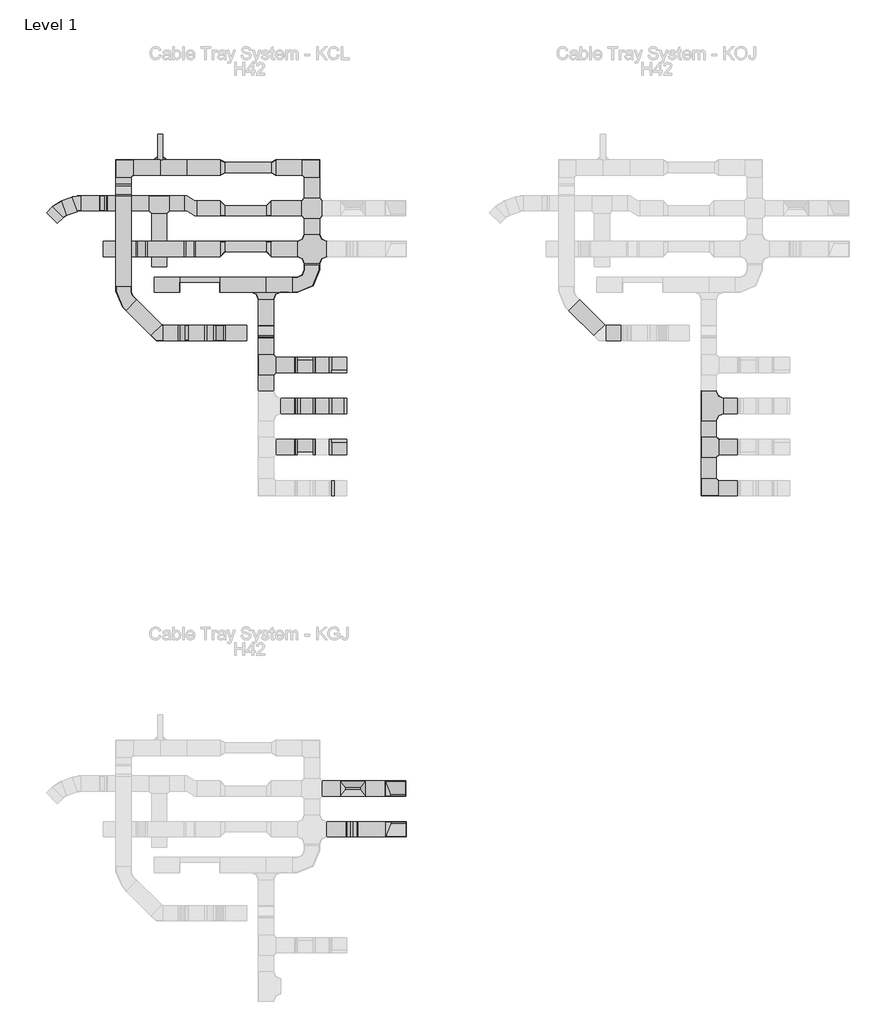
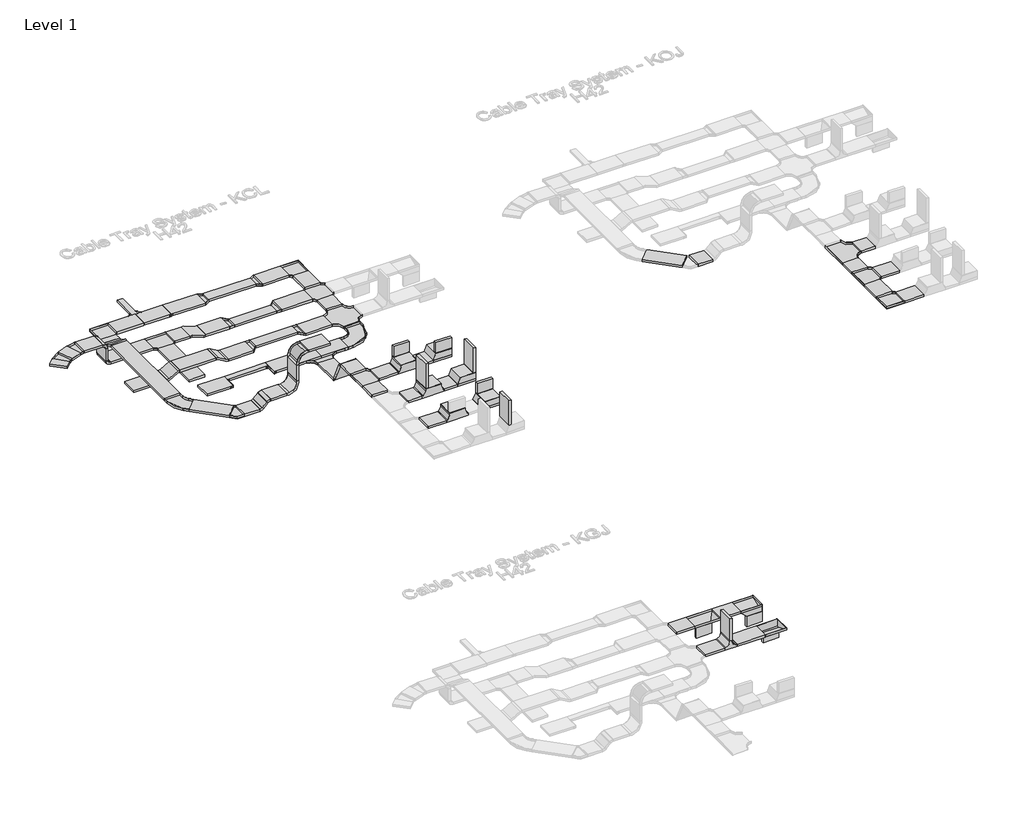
# One storey, part 2 of 106: 66 cable carrier segments, 48 cable carrier fittings.
"""IFC4 building model written with IfcOpenShell, lengths in millimetres."""

from ifc_helpers import new_model, si_unit, frame, origin, place, context, project, spatial, polyline, outline, extrude, transform, mapped, element, save
from components import cable_carrier_fitting_2f03b0e3, cable_carrier_fitting_e5c8e40d, cable_carrier_fitting_89415aa4, cable_carrier_fitting_efa56db2, cable_carrier_fitting_91cb0ece, cable_carrier_fitting_fd90c8b5, cable_carrier_fitting_9cc64f74, cable_carrier_fitting_881c8fdb, cable_carrier_fitting_302010ec, cable_carrier_fitting_bee8c25e, cable_carrier_fitting_2b67af39, cable_carrier_fitting_400b97e6, cable_carrier_fitting_736d034b, cable_carrier_fitting_af289c29, cable_carrier_fitting_3ff81d9b, cable_carrier_fitting_7d5806c9, cable_carrier_fitting_1724e2f5, cable_carrier_fitting_0e05e12f, cable_carrier_fitting_aa4403b1, cable_carrier_fitting_b8cc1d00, cable_carrier_fitting_19ef2403, cable_carrier_fitting_0fee3a18, cable_carrier_fitting_e93d4d17, cable_carrier_fitting_f62230c1, cable_carrier_fitting_68112528, cable_carrier_fitting_3c0e6721, cable_carrier_fitting_94ef316f, cable_carrier_fitting_d4aa8912, cable_carrier_fitting_70c157f5, cable_carrier_fitting_f138ef00, cable_carrier_fitting_b296faec, cable_carrier_fitting_717dd42d, cable_carrier_fitting_55953e98, cable_carrier_fitting_c1d9b0e5, rkj200_h42_1d64d163, rkj200_h42_0f858a6a

model = new_model("IFC4")

# Units and contexts
model_context = context("Model", 3, world=origin())
ifc_project = project(units=[si_unit("LENGTHUNIT", "METRE", prefix="MILLI")], contexts=[model_context])

# Site, building, storey
site = spatial("IfcSite", under=ifc_project)
building = spatial("IfcBuilding", under=site)
storey = spatial("IfcBuildingStorey", under=building, Name="Level 1", Elevation=0.0)

# Cable carrier fittings
placement = place(None, origin())
cable_carrier_fitting_shape = cable_carrier_fitting_2f03b0e3(model_context)
element("IfcCableCarrierFitting", 1, ObjectType="BAKS_Vertical tee symetrical : TRSNJ_H42", at=placement, inside=storey, context=model_context, shape_type="MappedRepresentation", body=[
    mapped(cable_carrier_fitting_shape, transform((-15558.1670538, 33580.8714214, 0.0), x_axis=(1.0, 0.0, 0.0), y_axis=(0.0, -1.0, 0.0), z_axis=(0.0, 0.0, -1.0))),
])
cable_carrier_fitting_2_shape = cable_carrier_fitting_e5c8e40d(model_context)
element("IfcCableCarrierFitting", 2, ObjectType="BAKS_SUB_Corner connector : LRJ_H42", at=placement, inside=storey, context=model_context, shape_type="MappedRepresentation", body=[
    mapped(cable_carrier_fitting_2_shape, transform((-19375.1670538, 46730.8714214, -21.0), x_axis=(-1.0, 0.0, 0.0), y_axis=(0.0, -1.0, 0.0), z_axis=(0.0, 0.0, 1.0))),
])
element("IfcCableCarrierFitting", 3, ObjectType="BAKS_SUB_Corner connector : LRJ_H42", at=placement, inside=storey, context=model_context, shape_type="MappedRepresentation", body=[
    mapped(cable_carrier_fitting_2_shape, transform((-19275.1670538, 46730.8714214, -21.0), x_axis=(0.0, 1.0, 0.0), y_axis=(-1.0, 0.0, 0.0), z_axis=(0.0, 0.0, 1.0))),
])
cable_carrier_fitting_3_shape = cable_carrier_fitting_89415aa4(model_context)
element("IfcCableCarrierFitting", 4, ObjectType="BAKS_Horizontal bend : KKBL/KKMBL_H42", at=placement, inside=storey, context=model_context, shape_type="MappedRepresentation", body=[
    mapped(cable_carrier_fitting_3_shape, transform((-19343.6670538, 43331.3714214, 100.0), x_axis=(0.7071067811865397, -0.7071067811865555, 0.0), y_axis=(0.7071067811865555, 0.7071067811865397, 0.0), z_axis=(0.0, 0.0, 1.0))),
])
cable_carrier_fitting_4_shape = cable_carrier_fitting_efa56db2(model_context)
element("IfcCableCarrierFitting", 5, ObjectType="BAKS_Horizontal bypass : OPZNJ_H42", at=placement, inside=storey, context=model_context, shape_type="MappedRepresentation", body=[
    mapped(cable_carrier_fitting_4_shape, transform((-18722.1670538, 45780.8714214, 0.0), x_axis=(-1.0, 0.0, 0.0), y_axis=(0.0, 1.0, 0.0), z_axis=(0.0, 0.0, -1.0))),
])
cable_carrier_fitting_5_shape = cable_carrier_fitting_91cb0ece(model_context)
element("IfcCableCarrierFitting", 6, ObjectType="BAKS_Horizontal cross over : CZKL_H42", at=placement, inside=storey, context=model_context, shape_type="MappedRepresentation", body=[
    mapped(cable_carrier_fitting_5_shape, transform((-16343.1670538, 45780.8714214, 0.0), x_axis=(0.0, -1.0, 0.0), y_axis=(1.0, 0.0, 0.0), z_axis=(0.0, 0.0, 1.0))),
])
cable_carrier_fitting_6_shape = cable_carrier_fitting_fd90c8b5(model_context)
element("IfcCableCarrierFitting", 7, ObjectType="BAKS_Horizontal tee radius : TKPJ_H42", at=placement, inside=storey, context=model_context, shape_type="MappedRepresentation", body=[
    mapped(cable_carrier_fitting_6_shape, transform((-8546.1670538, 41896.5802898, 432.5277378), x_axis=(0.0, 1.0, 0.0), y_axis=(-1.0, 0.0, 0.0), z_axis=(0.0, 0.0, 1.0))),
])
cable_carrier_fitting_7_shape = cable_carrier_fitting_9cc64f74(model_context)
element("IfcCableCarrierFitting", 8, ObjectType="BAKS_Horizontal tee : TKL_H42", at=placement, inside=storey, context=model_context, shape_type="MappedRepresentation", body=[
    mapped(cable_carrier_fitting_7_shape, transform((-19343.6670538, 45880.8714214, 0.0), x_axis=(1.0, 0.0, 0.0), y_axis=(0.0, 1.0, 0.0), z_axis=(0.0, 0.0, 1.0))),
])
element("IfcCableCarrierFitting", 9, ObjectType="BAKS_Horizontal tee : TKL_H42", at=placement, inside=storey, context=model_context, shape_type="MappedRepresentation", body=[
    mapped(cable_carrier_fitting_7_shape, transform((-8546.1670538, 41089.2974728, 432.5277378), x_axis=(0.0, 1.0, 0.0), y_axis=(-1.0, 0.0, 0.0), z_axis=(0.0, 0.0, 1.0))),
])
element("IfcCableCarrierFitting", 10, ObjectType="BAKS_Horizontal tee : TKL_H42", at=placement, inside=storey, context=model_context, shape_type="MappedRepresentation", body=[
    mapped(cable_carrier_fitting_7_shape, transform((-17246.1670538, 42703.8631068, 432.5277378), x_axis=(0.0, 1.0, 0.0), y_axis=(-1.0, 0.0, 0.0), z_axis=(0.0, 0.0, 1.0))),
])
cable_carrier_fitting_8_shape = cable_carrier_fitting_881c8fdb(model_context)
element("IfcCableCarrierFitting", 11, ObjectType="BAKS_Universal elbow : KRUMJ_H42", at=placement, inside=storey, context=model_context, shape_type="MappedRepresentation", body=[
    mapped(cable_carrier_fitting_8_shape, transform((-16006.1670538, 41896.5802898, 432.5277378), x_axis=(1.0, 0.0, 0.0), y_axis=(0.0, 1.0, 0.0), z_axis=(0.0, 0.0, 1.0))),
])
cable_carrier_fitting_9_shape = cable_carrier_fitting_302010ec(model_context)
element("IfcCableCarrierFitting", 12, ObjectType="BAKS_Universal tee : TRUNJ_H42", at=placement, inside=storey, context=model_context, shape_type="MappedRepresentation", body=[
    mapped(cable_carrier_fitting_9_shape, transform((-16473.5199976, 41896.5802898, 432.5277378), x_axis=(-1.0, 0.0, 0.0), y_axis=(0.0, -1.0, 0.0), z_axis=(0.0, 0.0, 1.0))),
])
cable_carrier_fitting_10_shape = cable_carrier_fitting_bee8c25e(model_context)
element("IfcCableCarrierFitting", 13, ObjectType="BAKS_Vertical bend adjustable : LLL/LLJ_H42", at=placement, inside=storey, context=model_context, shape_type="MappedRepresentation", body=[
    mapped(cable_carrier_fitting_10_shape, transform((-18246.2659001, 43331.3714214, 237.4011537), x_axis=(1.0, 0.0, 0.0), y_axis=(0.0, 0.0, 1.0), z_axis=(0.0, -1.0, 0.0))),
])
element("IfcCableCarrierFitting", 14, ObjectType="BAKS_Vertical bend adjustable : LLL/LLJ_H42", at=placement, inside=storey, context=model_context, shape_type="MappedRepresentation", body=[
    mapped(cable_carrier_fitting_10_shape, transform((-18246.2659001, 43331.3714214, 977.4011537), x_axis=(0.0, 0.0, 1.0), y_axis=(1.0, 0.0, 0.0), z_axis=(0.0, 1.0, 0.0))),
])
cable_carrier_fitting_11_shape = cable_carrier_fitting_2b67af39(model_context)
element("IfcCableCarrierFitting", 15, ObjectType="BAKS_Vertical bypass : OPNNJ_H42", at=placement, inside=storey, context=model_context, shape_type="MappedRepresentation", body=[
    mapped(cable_carrier_fitting_11_shape, transform((-19686.6670538, 44980.8714214, 100.0), x_axis=(-1.0, 0.0, 0.0), y_axis=(0.0, -1.0, 0.0), z_axis=(0.0, 0.0, 1.0))),
])
cable_carrier_fitting_12_shape = cable_carrier_fitting_400b97e6(model_context)
element("IfcCableCarrierFitting", 16, ObjectType="BAKS_Vertical elbow left : KRLBJ_H42", at=placement, inside=storey, context=model_context, shape_type="MappedRepresentation", body=[
    mapped(cable_carrier_fitting_12_shape, transform((-14908.1670538, 34380.8714214, 0.0), x_axis=(1.0, 0.0, 0.0), y_axis=(0.0, 1.0, 0.0), z_axis=(0.0, 0.0, 1.0))),
])
cable_carrier_fitting_13_shape = cable_carrier_fitting_736d034b(model_context)
element("IfcCableCarrierFitting", 17, ObjectType="BAKS_Vertical tee lengthwise : TRBJ_H42", at=placement, inside=storey, context=model_context, shape_type="MappedRepresentation", body=[
    mapped(cable_carrier_fitting_13_shape, transform((-15538.1670538, 34380.8714214, 0.0), x_axis=(-1.0, 0.0, 0.0), y_axis=(0.0, -1.0, 0.0), z_axis=(0.0, 0.0, 1.0))),
])
cable_carrier_fitting_14_shape = cable_carrier_fitting_af289c29(model_context)
element("IfcCableCarrierFitting", 18, ObjectType="BAKS_Articulated_connector : LGJ_H42", at=placement, inside=storey, context=model_context, shape_type="MappedRepresentation", body=[
    mapped(cable_carrier_fitting_14_shape, transform((-17246.1670538, 43458.7056523, 0.0), x_axis=(0.0, -1.0, 0.0), y_axis=(0.0, 0.0, 1.0), z_axis=(-1.0, 0.0, 0.0))),
])
element("IfcCableCarrierFitting", 19, ObjectType="BAKS_Articulated_connector : LGJ_H42", at=placement, inside=storey, context=model_context, shape_type="MappedRepresentation", body=[
    mapped(cable_carrier_fitting_14_shape, transform((-17246.1670538, 43257.0146558, 432.5277378), x_axis=(0.0, -0.42261826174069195, 0.9063077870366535), y_axis=(0.0, -0.9063077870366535, -0.42261826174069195), z_axis=(1.0, 0.0, 0.0))),
])
cable_carrier_fitting_15_shape = cable_carrier_fitting_3ff81d9b(model_context)
element("IfcCableCarrierFitting", 20, ObjectType="BAKS_Universal tee : TRUNJ_H42", at=placement, inside=storey, context=model_context, shape_type="MappedRepresentation", body=[
    mapped(cable_carrier_fitting_15_shape, transform((-16473.5199976, 42703.8631068, 432.5277378), x_axis=(-1.0, 0.0, 0.0), y_axis=(0.0, -1.0, 0.0), z_axis=(0.0, 0.0, 1.0))),
])
cable_carrier_fitting_16_shape = cable_carrier_fitting_7d5806c9(model_context)
element("IfcCableCarrierFitting", 21, ObjectType="BAKS_Universal tee : TRUNJ_H42", at=placement, inside=storey, context=model_context, shape_type="MappedRepresentation", body=[
    mapped(cable_carrier_fitting_16_shape, transform((-16473.5199976, 41089.2974728, 432.5277378), x_axis=(-1.0, 0.0, 0.0), y_axis=(0.0, -1.0, 0.0), z_axis=(0.0, 0.0, 1.0))),
])
cable_carrier_fitting_17_shape = cable_carrier_fitting_1724e2f5(model_context)
element("IfcCableCarrierFitting", 22, ObjectType="BAKS_Vertical bypass : OPNNJ_H42", at=placement, inside=storey, context=model_context, shape_type="MappedRepresentation", body=[
    mapped(cable_carrier_fitting_17_shape, transform((-18743.6670538, 44980.8714214, 0.0), x_axis=(-1.0, 0.0, 0.0), y_axis=(0.0, -1.0, 0.0), z_axis=(0.0, 0.0, 1.0))),
])
element("IfcCableCarrierFitting", 23, ObjectType="BAKS_Vertical bypass : OPNNJ_H42", at=placement, inside=storey, context=model_context, shape_type="MappedRepresentation", body=[
    mapped(cable_carrier_fitting_17_shape, transform((-20043.1670538, 46139.3714214, 0.0), x_axis=(0.0, -1.0, 0.0), y_axis=(1.0, 0.0, 0.0), z_axis=(0.0, 0.0, 1.0))),
])
cable_carrier_fitting_18_shape = cable_carrier_fitting_0e05e12f(model_context)
element("IfcCableCarrierFitting", 24, ObjectType="BAKS_Universal elbow : KRUMJ_H42", at=placement, inside=storey, context=model_context, shape_type="MappedRepresentation", body=[
    mapped(cable_carrier_fitting_18_shape, transform((-16006.1670538, 42703.8631068, 432.5277378), x_axis=(1.0, 0.0, 0.0), y_axis=(0.0, 1.0, 0.0), z_axis=(0.0, 0.0, 1.0))),
])
cable_carrier_fitting_19_shape = cable_carrier_fitting_aa4403b1(model_context)
element("IfcCableCarrierFitting", 25, ObjectType="BAKS_Universal elbow : KRUMJ_H42", at=placement, inside=storey, context=model_context, shape_type="MappedRepresentation", body=[
    mapped(cable_carrier_fitting_19_shape, transform((-16006.1670538, 41089.2974728, 432.5277378), x_axis=(1.0, 0.0, 0.0), y_axis=(0.0, 1.0, 0.0), z_axis=(0.0, 0.0, 1.0))),
])
cable_carrier_fitting_20_shape = cable_carrier_fitting_b8cc1d00(model_context)
element("IfcCableCarrierFitting", 26, ObjectType="BAKS_Vertical elbow right : KRPJ_H42", at=placement, inside=storey, context=model_context, shape_type="MappedRepresentation", body=[
    mapped(cable_carrier_fitting_20_shape, transform((-14902.1670538, 33580.8714214, 0.0), x_axis=(1.0, 0.0, 0.0), y_axis=(0.0, 1.0, 0.0), z_axis=(0.0, 0.0, 1.0))),
])
cable_carrier_fitting_21_shape = cable_carrier_fitting_19ef2403(model_context)
element("IfcCableCarrierFitting", 27, ObjectType="BAKS_Adjustable bend : KKRPJ_H42", at=placement, inside=storey, context=model_context, shape_type="MappedRepresentation", body=[
    mapped(cable_carrier_fitting_21_shape, transform((-21281.9563973, 45757.7441698, 400.0), x_axis=(-0.9396926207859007, -0.34202014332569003, 0.0), y_axis=(0.34202014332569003, -0.9396926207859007, 0.0), z_axis=(0.0, 0.0, 1.0))),
])
cable_carrier_fitting_22_shape = cable_carrier_fitting_0fee3a18(model_context)
element("IfcCableCarrierFitting", 28, ObjectType="BAKS_Adjustable bend : KKRPJ_H42", at=placement, inside=storey, context=model_context, shape_type="MappedRepresentation", body=[
    mapped(cable_carrier_fitting_22_shape, transform((-20943.6670538, 45880.8714214, 400.0), x_axis=(-1.0, 0.0, 0.0), y_axis=(0.0, -1.0, 0.0), z_axis=(0.0, 0.0, 1.0))),
])
cable_carrier_fitting_23_shape = cable_carrier_fitting_e93d4d17(model_context)
element("IfcCableCarrierFitting", 29, ObjectType="BAKS_Plate connector : LPMU_H42", at=placement, inside=storey, context=model_context, shape_type="MappedRepresentation", body=[
    mapped(cable_carrier_fitting_23_shape, transform((-18803.1670538, 46580.8714214, 0.0), x_axis=(1.0, 0.0, 0.0), y_axis=(0.0, 1.0, 0.0), z_axis=(0.0, 0.0, 1.0))),
])
cable_carrier_fitting_24_shape = cable_carrier_fitting_f62230c1(model_context)
element("IfcCableCarrierFitting", 30, ObjectType="BAKS_Vertical bend LU : LLJ_H42", at=placement, inside=storey, context=model_context, shape_type="MappedRepresentation", body=[
    mapped(cable_carrier_fitting_24_shape, transform((-20443.6670538, 45880.8714214, 0.0), x_axis=(-1.0, 0.0, 0.0), y_axis=(0.0, 0.0, 1.0), z_axis=(0.0, 1.0, 0.0))),
])
element("IfcCableCarrierFitting", 31, ObjectType="BAKS_Vertical bend LU : LLJ_H42", at=placement, inside=storey, context=model_context, shape_type="MappedRepresentation", body=[
    mapped(cable_carrier_fitting_24_shape, transform((-20443.6670538, 45880.8714214, 400.0), x_axis=(0.0, 0.0, 1.0), y_axis=(-1.0, 0.0, 0.0), z_axis=(0.0, -1.0, 0.0))),
])
cable_carrier_fitting_25_shape = cable_carrier_fitting_68112528(model_context)
element("IfcCableCarrierFitting", 32, ObjectType="BAKS_Vertical bend LU : LLJ_H42", at=placement, inside=storey, context=model_context, shape_type="MappedRepresentation", body=[
    mapped(cable_carrier_fitting_25_shape, transform((-18943.6670538, 43331.3714214, 100.0), x_axis=(1.0, 0.0, 0.0), y_axis=(0.0, 0.0, 1.0), z_axis=(0.0, -1.0, 0.0))),
])
element("IfcCableCarrierFitting", 33, ObjectType="BAKS_Vertical bend LU : LLJ_H42", at=placement, inside=storey, context=model_context, shape_type="MappedRepresentation", body=[
    mapped(cable_carrier_fitting_25_shape, transform((-18806.2659001, 43331.3714214, 237.4011537), x_axis=(0.7071067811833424, 0.0, 0.7071067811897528), y_axis=(0.7071067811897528, 0.0, -0.7071067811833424), z_axis=(0.0, 1.0, 0.0))),
])
cable_carrier_fitting_26_shape = cable_carrier_fitting_3c0e6721(model_context)
element("IfcCableCarrierFitting", 34, ObjectType="BAKS_Horizontal cross over radius : CZKPJ_H42", at=placement, inside=storey, context=model_context, shape_type="MappedRepresentation", body=[
    mapped(cable_carrier_fitting_26_shape, transform((-16343.1670538, 44980.8714214, 0.0), x_axis=(0.0, -1.0, 0.0), y_axis=(1.0, 0.0, 0.0), z_axis=(0.0, 0.0, 1.0))),
])
cable_carrier_fitting_27_shape = cable_carrier_fitting_94ef316f(model_context)
element("IfcCableCarrierFitting", 35, ObjectType="BAKS_Reducer : RK(S/L/P)L_H42", at=placement, inside=storey, context=model_context, shape_type="MappedRepresentation", body=[
    mapped(cable_carrier_fitting_27_shape, transform((-18143.1670538, 46580.8714214, 0.0), x_axis=(1.0, 0.0, 0.0), y_axis=(0.0, 1.0, 0.0), z_axis=(0.0, 0.0, 1.0))),
])
cable_carrier_fitting_28_shape = cable_carrier_fitting_d4aa8912(model_context)
element("IfcCableCarrierFitting", 36, ObjectType="BAKS_Reducer : RK(S/L/P)L_H42", at=placement, inside=storey, context=model_context, shape_type="MappedRepresentation", body=[
    mapped(cable_carrier_fitting_28_shape, transform((-17143.1670538, 46580.8714214, 0.0), x_axis=(1.0, 0.0, 0.0), y_axis=(0.0, 1.0, 0.0), z_axis=(0.0, 0.0, 1.0))),
])
cable_carrier_fitting_29_shape = cable_carrier_fitting_70c157f5(model_context)
element("IfcCableCarrierFitting", 37, ObjectType="BAKS_Reducer : RK(S/L/P)L_H42", at=placement, inside=storey, context=model_context, shape_type="MappedRepresentation", body=[
    mapped(cable_carrier_fitting_29_shape, transform((-18143.1670538, 45780.8714214, 0.0), x_axis=(1.0, 0.0, 0.0), y_axis=(0.0, 1.0, 0.0), z_axis=(0.0, 0.0, 1.0))),
])
element("IfcCableCarrierFitting", 38, ObjectType="BAKS_Reducer : RK(S/L/P)L_H42", at=placement, inside=storey, context=model_context, shape_type="MappedRepresentation", body=[
    mapped(cable_carrier_fitting_29_shape, transform((-17143.1670538, 44980.8714214, 0.0), x_axis=(-1.0, 0.0, 0.0), y_axis=(0.0, -1.0, 0.0), z_axis=(0.0, 0.0, 1.0))),
])
cable_carrier_fitting_30_shape = cable_carrier_fitting_f138ef00(model_context)
element("IfcCableCarrierFitting", 39, ObjectType="BAKS_Reducer : RK(S/L/P)L_H42", at=placement, inside=storey, context=model_context, shape_type="MappedRepresentation", body=[
    mapped(cable_carrier_fitting_30_shape, transform((-17143.1670538, 45780.8714214, 0.0), x_axis=(-1.0, 0.0, 0.0), y_axis=(0.0, -1.0, 0.0), z_axis=(0.0, 0.0, 1.0))),
])
element("IfcCableCarrierFitting", 40, ObjectType="BAKS_Reducer : RK(S/L/P)L_H42", at=placement, inside=storey, context=model_context, shape_type="MappedRepresentation", body=[
    mapped(cable_carrier_fitting_30_shape, transform((-18143.1670538, 44980.8714214, 0.0), x_axis=(1.0, 0.0, 0.0), y_axis=(0.0, 1.0, 0.0), z_axis=(0.0, 0.0, 1.0))),
])
cable_carrier_fitting_31_shape = cable_carrier_fitting_b296faec(model_context)
element("IfcCableCarrierFitting", 41, ObjectType="BAKS_Horizontal addon tee : TKDJ_H42", at=placement, inside=storey, context=model_context, shape_type="MappedRepresentation", body=[
    mapped(cable_carrier_fitting_31_shape, transform((-17246.1670538, 44280.8714214, 0.0), x_axis=(1.0, 0.0, 0.0), y_axis=(0.0, 1.0, 0.0), z_axis=(0.0, 0.0, 1.0))),
])
cable_carrier_fitting_32_shape = cable_carrier_fitting_717dd42d(model_context)
element("IfcCableCarrierFitting", 42, ObjectType="BAKS_Horizontal bend : KKBL/KKMBL_H42", at=placement, inside=storey, context=model_context, shape_type="MappedRepresentation", body=[
    mapped(cable_carrier_fitting_32_shape, transform((-16343.1670538, 46580.8714214, 0.0), x_axis=(0.0, 1.0, 0.0), y_axis=(-1.0, 0.0, 0.0), z_axis=(0.0, 0.0, 1.0))),
])
element("IfcCableCarrierFitting", 43, ObjectType="BAKS_Horizontal bend : KKBL/KKMBL_H42", at=placement, inside=storey, context=model_context, shape_type="MappedRepresentation", body=[
    mapped(cable_carrier_fitting_32_shape, transform((-20043.1670538, 46580.8714214, 0.0), x_axis=(-1.0, 0.0, 0.0), y_axis=(0.0, -1.0, 0.0), z_axis=(0.0, 0.0, 1.0))),
])
element("IfcCableCarrierFitting", 44, ObjectType="BAKS_Horizontal bend : KKBL/KKMBL_H42", at=placement, inside=storey, context=model_context, shape_type="MappedRepresentation", body=[
    mapped(cable_carrier_fitting_32_shape, transform((-8546.1670538, 40282.0146558, 432.5277378), x_axis=(0.0, -1.0, 0.0), y_axis=(1.0, 0.0, 0.0), z_axis=(0.0, 0.0, 1.0))),
])
cable_carrier_fitting_33_shape = cable_carrier_fitting_55953e98(model_context)
element("IfcCableCarrierFitting", 45, ObjectType="BAKS_Horizontal bend radius : KKPJ/KKMPJ_H42", at=placement, inside=storey, context=model_context, shape_type="MappedRepresentation", body=[
    mapped(cable_carrier_fitting_33_shape, transform((-20043.1670538, 44030.8714214, 100.0), x_axis=(0.0, -1.0, 0.0), y_axis=(1.0, 0.0, 0.0), z_axis=(0.0, 0.0, 1.0))),
])
cable_carrier_fitting_34_shape = cable_carrier_fitting_c1d9b0e5(model_context)
element("IfcCableCarrierFitting", 46, ObjectType="BAKS_Horizontal bend radius : KKPJ/KKMPJ_H42", at=placement, inside=storey, context=model_context, shape_type="MappedRepresentation", body=[
    mapped(cable_carrier_fitting_34_shape, transform((-16343.1670538, 44280.8714214, 0.0), x_axis=(1.0, 0.0, 0.0), y_axis=(0.0, 1.0, 0.0), z_axis=(0.0, 0.0, 1.0))),
])
rkj200_h42_shape = rkj200_h42_1d64d163(model_context)
element("IfcCableCarrierFitting", 47, ObjectType="BAKS_SUB_Reduction angular : RKJ200_H42", at=placement, inside=storey, context=model_context, shape_type="MappedRepresentation", body=[
    mapped(rkj200_h42_shape, transform((-18943.1670538, 44130.8714214, -21.0), x_axis=(1.0, 0.0, 0.0), y_axis=(0.0, 1.0, 0.0), z_axis=(0.0, 0.0, 1.0))),
])
rkj200_h42_2_shape = rkj200_h42_0f858a6a(model_context)
element("IfcCableCarrierFitting", 48, ObjectType="BAKS_SUB_Reduction angular : RKJ200_H42", at=placement, inside=storey, context=model_context, shape_type="MappedRepresentation", body=[
    mapped(rkj200_h42_2_shape, transform((-18153.1670538, 44130.8714214, -21.0), x_axis=(-1.0, 0.0, 0.0), y_axis=(0.0, -1.0, 0.0), z_axis=(0.0, 0.0, 1.0))),
])

# Cable carrier segments
element("IfcCableCarrierSegment", 49, ObjectType="BAKS - Cable tray H42 (KCL)", at=placement, inside=storey, context=model_context, shape_type="SweptSolid", body=[
    extrude(outline(polyline([(-18802.1670538, 46430.8714214), (-18802.1670538, 46730.8714214), (-18143.1670538, 46730.8714214), (-18143.1670538, 46430.8714214), (-18802.1670538, 46430.8714214)])), frame((0.0, 0.0, -21.0), z_axis=(0.0, 0.0, 1.0), x_axis=(1.0, 0.0, 0.0)), (0.0, 0.0, 1.0), 42.0),
])
element("IfcCableCarrierSegment", 50, ObjectType="BAKS - Cable tray H42 (KCL)", at=placement, inside=storey, context=model_context, shape_type="SweptSolid", body=[
    extrude(outline(polyline([(-18048.1670538, 46480.8714214), (-18048.1670538, 46680.8714214), (-17143.1670538, 46680.8714214), (-17143.1670538, 46480.8714214), (-18048.1670538, 46480.8714214)])), frame((0.0, 0.0, -21.0), z_axis=(0.0, 0.0, 1.0), x_axis=(1.0, 0.0, 0.0)), (0.0, 0.0, 1.0), 42.0),
])
element("IfcCableCarrierSegment", 51, ObjectType="BAKS - Cable tray H42 (KCL)", at=placement, inside=storey, context=model_context, shape_type="SweptSolid", body=[
    extrude(outline(polyline([(-17048.1670538, 46430.8714214), (-17048.1670538, 46730.8714214), (-16539.1670538, 46730.8714214), (-16539.1670538, 46430.8714214), (-17048.1670538, 46430.8714214)])), frame((0.0, 0.0, -21.0), z_axis=(0.0, 0.0, 1.0), x_axis=(1.0, 0.0, 0.0)), (0.0, 0.0, 1.0), 42.0),
])
element("IfcCableCarrierSegment", 52, ObjectType="BAKS - Cable tray H42 (KCL)", at=placement, inside=storey, context=model_context, shape_type="SweptSolid", body=[
    extrude(outline(polyline([(-16493.1670538, 46384.8714214), (-16193.1670538, 46384.8714214), (-16193.1670538, 45985.8714214), (-16493.1670538, 45985.8714214), (-16493.1670538, 46384.8714214)])), frame((0.0, 0.0, -21.0), z_axis=(0.0, 0.0, 1.0), x_axis=(1.0, 0.0, 0.0)), (0.0, 0.0, 1.0), 42.0),
])
element("IfcCableCarrierSegment", 53, ObjectType="BAKS - Cable tray H42 (KCL)", at=placement, inside=storey, context=model_context, shape_type="SweptSolid", body=[
    extrude(outline(polyline([(-16493.1670538, 45575.8714214), (-16193.1670538, 45575.8714214), (-16193.1670538, 45271.8714214), (-16493.1670538, 45271.8714214), (-16493.1670538, 45575.8714214)])), frame((0.0, 0.0, -21.0), z_axis=(0.0, 0.0, 1.0), x_axis=(1.0, 0.0, 0.0)), (0.0, 0.0, 1.0), 42.0),
])
element("IfcCableCarrierSegment", 54, ObjectType="BAKS - Cable tray H42 (KCL)", at=placement, inside=storey, context=model_context, shape_type="SweptSolid", body=[
    extrude(outline(polyline([(-17238.1670538, 45830.8714214), (-17238.1670538, 45630.8714214), (-18048.1670538, 45630.8714214), (-18048.1670538, 45830.8714214), (-17238.1670538, 45830.8714214)])), frame((0.0, 0.0, -21.0), z_axis=(0.0, 0.0, 1.0), x_axis=(1.0, 0.0, 0.0)), (0.0, 0.0, 1.0), 42.0),
])
element("IfcCableCarrierSegment", 55, ObjectType="BAKS - Cable tray H42 (KCL)", at=placement, inside=storey, context=model_context, shape_type="SweptSolid", body=[
    extrude(outline(polyline([(-18600.6670538, 45630.8714214), (-18600.6670538, 45930.8714214), (-18143.1670538, 45930.8714214), (-18143.1670538, 45630.8714214), (-18600.6670538, 45630.8714214)])), frame((0.0, 0.0, -21.0), z_axis=(0.0, 0.0, 1.0), x_axis=(1.0, 0.0, 0.0)), (0.0, 0.0, 1.0), 42.0),
])
element("IfcCableCarrierSegment", 56, ObjectType="BAKS - Cable tray H42 (KCL)", at=placement, inside=storey, context=model_context, shape_type="SweptSolid", body=[
    extrude(outline(polyline([(-16548.1670538, 45930.8714214), (-16548.1670538, 45630.8714214), (-17143.1670538, 45630.8714214), (-17143.1670538, 45930.8714214), (-16548.1670538, 45930.8714214)])), frame((0.0, 0.0, -21.0), z_axis=(0.0, 0.0, 1.0), x_axis=(1.0, 0.0, 0.0)), (0.0, 0.0, 1.0), 42.0),
])
element("IfcCableCarrierSegment", 57, ObjectType="BAKS - Cable tray H42 (KCL)", at=placement, inside=storey, context=model_context, shape_type="SweptSolid", body=[
    extrude(outline(polyline([(-17238.1670538, 45130.8714214), (-17238.1670538, 44930.8714214), (-18048.1670538, 44930.8714214), (-18048.1670538, 45130.8714214), (-17238.1670538, 45130.8714214)])), frame((0.0, 0.0, -21.0), z_axis=(0.0, 0.0, 1.0), x_axis=(1.0, 0.0, 0.0)), (0.0, 0.0, 1.0), 42.0),
])
element("IfcCableCarrierSegment", 58, ObjectType="BAKS - Cable tray H42 (KCL)", at=placement, inside=storey, context=model_context, shape_type="SweptSolid", body=[
    extrude(outline(polyline([(-18622.1670538, 44830.8714214), (-18622.1670538, 45130.8714214), (-18143.1670538, 45130.8714214), (-18143.1670538, 44830.8714214), (-18622.1670538, 44830.8714214)])), frame((0.0, 0.0, -21.0), z_axis=(0.0, 0.0, 1.0), x_axis=(1.0, 0.0, 0.0)), (0.0, 0.0, 1.0), 42.0),
])
element("IfcCableCarrierSegment", 59, ObjectType="BAKS - Cable tray H42 (KCL)", at=placement, inside=storey, context=model_context, shape_type="SweptSolid", body=[
    extrude(outline(polyline([(-16634.1670538, 45130.8714214), (-16634.1670538, 44830.8714214), (-17143.1670538, 44830.8714214), (-17143.1670538, 45130.8714214), (-16634.1670538, 45130.8714214)])), frame((0.0, 0.0, -21.0), z_axis=(0.0, 0.0, 1.0), x_axis=(1.0, 0.0, 0.0)), (0.0, 0.0, 1.0), 42.0),
])
element("IfcCableCarrierSegment", 60, ObjectType="BAKS - Cable tray H42 (KCL)", at=placement, inside=storey, context=model_context, shape_type="SweptSolid", body=[
    extrude(outline(polyline([(-19548.6670538, 46030.8714214), (-19548.6670538, 45730.8714214), (-20367.6670538, 45730.8714214), (-20367.6670538, 46030.8714214), (-19548.6670538, 46030.8714214)])), frame((0.0, 0.0, -21.0), z_axis=(0.0, 0.0, 1.0), x_axis=(1.0, 0.0, 0.0)), (0.0, 0.0, 1.0), 42.0),
])
element("IfcCableCarrierSegment", 61, ObjectType="BAKS - Cable tray H42 (KCL)", at=placement, inside=storey, context=model_context, shape_type="SweptSolid", body=[
    extrude(outline(polyline([(-18865.1670538, 45130.8714214), (-18865.1670538, 44830.8714214), (-19565.1670538, 44830.8714214), (-19565.1670538, 45130.8714214), (-18865.1670538, 45130.8714214)])), frame((0.0, 0.0, 79.0), z_axis=(0.0, 0.0, 1.0), x_axis=(1.0, 0.0, 0.0)), (0.0, 0.0, 1.0), 42.0),
])
element("IfcCableCarrierSegment", 62, ObjectType="BAKS - Cable tray H42 (KCL)", at=placement, inside=storey, context=model_context, shape_type="SweptSolid", body=[
    extrude(outline(polyline([(-20193.1670538, 46384.8714214), (-19893.1670538, 46384.8714214), (-19893.1670538, 46260.8714214), (-20193.1670538, 46260.8714214), (-20193.1670538, 46384.8714214)])), frame((0.0, 0.0, -21.0), z_axis=(0.0, 0.0, 1.0), x_axis=(1.0, 0.0, 0.0)), (0.0, 0.0, 1.0), 42.0),
])
element("IfcCableCarrierSegment", 63, ObjectType="BAKS - Cable tray H42 (KCL)", at=placement, inside=storey, context=model_context, shape_type="SweptSolid", body=[
    extrude(outline(polyline([(-19493.6670538, 45675.8714214), (-19193.6670538, 45675.8714214), (-19193.6670538, 44630.8714214), (-19493.6670538, 44630.8714214), (-19493.6670538, 45675.8714214)])), frame((0.0, 0.0, -21.0), z_axis=(0.0, 0.0, 1.0), x_axis=(1.0, 0.0, 0.0)), (0.0, 0.0, 1.0), 42.0),
])
element("IfcCableCarrierSegment", 64, ObjectType="BAKS - Cable tray H42 (KCL)", at=placement, inside=storey, context=model_context, shape_type="SweptSolid", body=[
    extrude(outline(polyline([(-18843.6670538, 46030.8714214), (-18843.6670538, 45730.8714214), (-19138.6670538, 45730.8714214), (-19138.6670538, 46030.8714214), (-18843.6670538, 46030.8714214)])), frame((0.0, 0.0, -21.0), z_axis=(0.0, 0.0, 1.0), x_axis=(1.0, 0.0, 0.0)), (0.0, 0.0, 1.0), 42.0),
])
element("IfcCableCarrierSegment", 65, ObjectType="BAKS - Cable tray H42 (KCL)", at=placement, inside=storey, context=model_context, shape_type="SweptSolid", body=[
    extrude(outline(polyline([(-19808.1670538, 45130.8714214), (-19808.1670538, 44830.8714214), (-20443.6670538, 44830.8714214), (-20443.6670538, 45130.8714214), (-19808.1670538, 45130.8714214)])), frame((0.0, 0.0, -21.0), z_axis=(0.0, 0.0, 1.0), x_axis=(1.0, 0.0, 0.0)), (0.0, 0.0, 1.0), 42.0),
])
element("IfcCableCarrierSegment", 66, ObjectType="BAKS - Cable tray H42 (KCL)", at=placement, inside=storey, context=model_context, shape_type="SweptSolid", body=[
    extrude(outline(polyline([(-20877.5322294, 45730.8714214), (-20877.5322294, 46030.8714214), (-20519.6670538, 46030.8714214), (-20519.6670538, 45730.8714214), (-20877.5322294, 45730.8714214)])), frame((0.0, 0.0, 379.0), z_axis=(0.0, 0.0, 1.0), x_axis=(1.0, 0.0, 0.0)), (0.0, 0.0, 1.0), 42.0),
])
element("IfcCableCarrierSegment", 67, ObjectType="BAKS - Cable tray H42 (KCL)", at=placement, inside=storey, context=model_context, shape_type="SweptSolid", body=[
    extrude(outline(polyline([(-20464.6670538, 46030.8714214), (-20422.6670538, 46030.8714214), (-20422.6670538, 45730.8714214), (-20464.6670538, 45730.8714214), (-20464.6670538, 46030.8714214)])), frame((0.0, 0.0, 76.0), z_axis=(0.0, 0.0, 1.0), x_axis=(1.0, 0.0, 0.0)), (0.0, 0.0, 1.0), 248.0),
])
element("IfcCableCarrierSegment", 68, ObjectType="BAKS - Cable tray H42 (KCL)", at=placement, inside=storey, context=model_context, shape_type="SweptSolid", body=[
    extrude(outline(polyline([(-19893.1670538, 44250.9933545), (-20193.1670538, 44250.9933545), (-20193.1670538, 46017.8714214), (-19893.1670538, 46017.8714214), (-19893.1670538, 44250.9933545)])), frame((0.0, 0.0, 79.0), z_axis=(0.0, 0.0, 1.0), x_axis=(1.0, 0.0, 0.0)), (0.0, 0.0, 1.0), 42.0),
])
element("IfcCableCarrierSegment", 69, ObjectType="BAKS - Cable tray H42 (KCL)", at=placement, inside=storey, context=model_context, shape_type="SweptSolid", body=[
    extrude(outline(polyline([(-19993.5833594, 43769.1556926), (-19781.451325, 43981.287727), (-19295.422321, 43495.258723), (-19507.5543554, 43283.1266887), (-19993.5833594, 43769.1556926)])), frame((0.0, 0.0, 79.0), z_axis=(0.0, 0.0, 1.0), x_axis=(1.0, 0.0, 0.0)), (0.0, 0.0, 1.0), 42.0),
])
element("IfcCableCarrierSegment", 70, ObjectType="BAKS - Cable tray H42 (KCL)", at=placement, inside=storey, context=model_context, shape_type="SweptSolid", body=[
    extrude(outline(polyline([(-19261.8954091, 43181.3714214), (-19261.8954091, 43481.3714214), (-18978.0762167, 43481.3714214), (-18978.0762167, 43181.3714214), (-19261.8954091, 43181.3714214)])), frame((0.0, 0.0, 79.0), z_axis=(0.0, 0.0, 1.0), x_axis=(1.0, 0.0, 0.0)), (0.0, 0.0, 1.0), 42.0),
])
element("IfcCableCarrierSegment", 71, ObjectType="BAKS - Cable tray H42 (KCL)", at=placement, inside=storey, context=model_context, shape_type="SweptSolid", body=[
    extrude(outline(polyline([(21.0, 1.4628667), (-21.0, 1.4628667), (-21.0, 301.4628667), (21.0, 301.4628667), (21.0, 1.4628667)])), frame((-18919.3361013, 43179.9085547, 124.3309524), z_axis=(0.7071067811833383, 0.0, 0.7071067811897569), x_axis=(0.7071067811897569, 0.0, -0.7071067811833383)), (0.0, 0.0, 1.0), 125.4962492),
])
element("IfcCableCarrierSegment", 72, ObjectType="BAKS - Cable tray H42 (KCL)", at=placement, inside=storey, context=model_context, shape_type="SweptSolid", body=[
    extrude(outline(polyline([(-18771.8567371, 43181.3714214), (-18771.8567371, 43481.3714214), (-18457.2659001, 43481.3714214), (-18457.2659001, 43181.3714214), (-18771.8567371, 43181.3714214)])), frame((0.0, 0.0, 216.4011537), z_axis=(0.0, 0.0, 1.0), x_axis=(1.0, 0.0, 0.0)), (0.0, 0.0, 1.0), 42.0),
])
element("IfcCableCarrierSegment", 73, ObjectType="BAKS - Cable tray H42 (KCL)", at=placement, inside=storey, context=model_context, shape_type="SweptSolid", body=[
    extrude(outline(polyline([(-18225.2659001, 43181.3714214), (-18267.2659001, 43181.3714214), (-18267.2659001, 43481.3714214), (-18225.2659001, 43481.3714214), (-18225.2659001, 43181.3714214)])), frame((0.0, 0.0, 448.4011537), z_axis=(0.0, 0.0, 1.0), x_axis=(1.0, 0.0, 0.0)), (0.0, 0.0, 1.0), 318.0),
])
element("IfcCableCarrierSegment", 74, ObjectType="BAKS - Cable tray H42 (KCL)", at=placement, inside=storey, context=model_context, shape_type="SweptSolid", body=[
    extrude(outline(polyline([(-18035.2659001, 43181.3714214), (-18035.2659001, 43481.3714214), (-17626.2659001, 43481.3714214), (-17626.2659001, 43181.3714214), (-18035.2659001, 43181.3714214)])), frame((0.0, 0.0, 956.4011537), z_axis=(0.0, 0.0, 1.0), x_axis=(1.0, 0.0, 0.0)), (0.0, 0.0, 1.0), 42.0),
])
element("IfcCableCarrierSegment", 75, ObjectType="BAKS - Cable tray H42 (KCL)", at=placement, inside=storey, context=model_context, shape_type="SweptSolid", body=[
    extrude(outline(polyline([(-17246.7091451, 44430.8714214), (-17246.7091451, 44130.8714214), (-18152.1670538, 44130.8714214), (-18152.1670538, 44430.8714214), (-17246.7091451, 44430.8714214)])), frame((0.0, 0.0, -21.0), z_axis=(0.0, 0.0, 1.0), x_axis=(1.0, 0.0, 0.0)), (0.0, 0.0, 1.0), 42.0),
])
element("IfcCableCarrierSegment", 76, ObjectType="BAKS - Cable tray H42 (KCL)", at=placement, inside=storey, context=model_context, shape_type="SweptSolid", body=[
    extrude(outline(polyline([(-16193.1670538, 44670.8714214), (-16493.1670538, 44670.8714214), (-16493.1670538, 44689.8714214), (-16193.1670538, 44689.8714214), (-16193.1670538, 44670.8714214)])), frame((0.0, 0.0, -21.0), z_axis=(0.0, 0.0, 1.0), x_axis=(1.0, 0.0, 0.0)), (0.0, 0.0, 1.0), 42.0),
])
element("IfcCableCarrierSegment", 77, ObjectType="BAKS - Cable tray H42 (KCL)", at=placement, inside=storey, context=model_context, shape_type="SweptSolid", body=[
    extrude(outline(polyline([(-19443.1670538, 44130.8714214), (-19443.1670538, 44430.8714214), (-18943.1670538, 44430.8714214), (-18943.1670538, 44130.8714214), (-19443.1670538, 44130.8714214)])), frame((0.0, 0.0, -21.0), z_axis=(0.0, 0.0, 1.0), x_axis=(1.0, 0.0, 0.0)), (0.0, 0.0, 1.0), 42.0),
])
element("IfcCableCarrierSegment", 78, ObjectType="BAKS - Cable tray H42 (KCL)", at=placement, inside=storey, context=model_context, shape_type="SweptSolid", body=[
    extrude(outline(polyline([(-16733.1670538, 44430.8714214), (-16733.1670538, 44130.8714214), (-17245.6249624, 44130.8714214), (-17245.6249624, 44430.8714214), (-16733.1670538, 44430.8714214)])), frame((0.0, 0.0, -21.0), z_axis=(0.0, 0.0, 1.0), x_axis=(1.0, 0.0, 0.0)), (0.0, 0.0, 1.0), 42.0),
])
element("IfcCableCarrierSegment", 79, ObjectType="BAKS - Cable tray H42 (KCL)", at=placement, inside=storey, context=model_context, shape_type="SweptSolid", body=[
    extrude(outline(polyline([(-17396.1670538, 43984.8714214), (-17096.1670538, 43984.8714214), (-17096.1670538, 43485.269479), (-17396.1670538, 43485.269479), (-17396.1670538, 43984.8714214)])), frame((0.0, 0.0, -21.0), z_axis=(0.0, 0.0, 1.0), x_axis=(1.0, 0.0, 0.0)), (0.0, 0.0, 1.0), 42.0),
])
element("IfcCableCarrierSegment", 80, ObjectType="BAKS - Cable tray H42 (KCL)", at=placement, inside=storey, context=model_context, shape_type="SweptSolid", body=[
    extrude(outline(polyline([(-150.0, 130.4628667), (-150.0, 172.4628668), (150.0, 172.4628668), (150.0, 130.4628667), (-150.0, 130.4628667)])), frame((-17246.1670538, 43310.2073184, -39.9359704), z_axis=(0.0, -0.4226182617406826, 0.9063077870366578), x_axis=(1.0, 0.0, 0.0)), (0.0, 0.0, 1.0), 424.1139016),
])
element("IfcCableCarrierSegment", 81, ObjectType="BAKS - Cable tray H42 (KCL)", at=placement, inside=storey, context=model_context, shape_type="SweptSolid", body=[
    extrude(outline(polyline([(-21057.1164817, 45999.2058724), (-20954.5104387, 45717.2980862), (-21156.1437833, 45643.9095505), (-21258.7498263, 45925.8173368), (-21057.1164817, 45999.2058724)])), frame((0.0, 0.0, 379.0), z_axis=(0.0, 0.0, 1.0), x_axis=(1.0, 0.0, 0.0)), (0.0, 0.0, 1.0), 42.0),
])
element("IfcCableCarrierSegment", 82, ObjectType="BAKS - Cable tray H42 (KCL)", at=placement, inside=storey, context=model_context, shape_type="SweptSolid", body=[
    extrude(outline(polyline([(-21444.0899379, 45807.7426635), (-21231.9579036, 45595.6106291), (-21344.3432656, 45483.2252671), (-21556.4753, 45695.3573015), (-21444.0899379, 45807.7426635)])), frame((0.0, 0.0, 379.0), z_axis=(0.0, 0.0, 1.0), x_axis=(1.0, 0.0, 0.0)), (0.0, 0.0, 1.0), 42.0),
])
element("IfcCableCarrierSegment", 83, ObjectType="BAKS - Cable tray H42 (KGJ)", at=placement, inside=storey, context=model_context, shape_type="SweptSolid", body=[
    extrude(outline(polyline([(-16138.1670538, 34230.8714214), (-16138.1670538, 34530.8714214), (-15788.1670538, 34530.8714214), (-15788.1670538, 34230.8714214), (-16138.1670538, 34230.8714214)])), frame((0.0, 0.0, -21.0), z_axis=(0.0, 0.0, 1.0), x_axis=(1.0, 0.0, 0.0)), (0.0, 0.0, 1.0), 42.0),
])
element("IfcCableCarrierSegment", 84, ObjectType="BAKS - Cable tray H42 (KGJ)", at=placement, inside=storey, context=model_context, shape_type="SweptSolid", body=[
    extrude(outline(polyline([(-16052.1670538, 33430.8714214), (-16052.1670538, 33730.8714214), (-15674.1670538, 33730.8714214), (-15674.1670538, 33430.8714214), (-16052.1670538, 33430.8714214)])), frame((0.0, 0.0, -21.0), z_axis=(0.0, 0.0, 1.0), x_axis=(1.0, 0.0, 0.0)), (0.0, 0.0, 1.0), 42.0),
])
element("IfcCableCarrierSegment", 85, ObjectType="BAKS - Cable tray H42 (KGJ)", at=placement, inside=storey, context=model_context, shape_type="SweptSolid", body=[
    extrude(outline(polyline([(-15442.1670538, 33430.8714214), (-15442.1670538, 33730.8714214), (-14902.1670538, 33730.8714214), (-14902.1670538, 33430.8714214), (-15442.1670538, 33430.8714214)])), frame((0.0, 0.0, -21.0), z_axis=(0.0, 0.0, 1.0), x_axis=(1.0, 0.0, 0.0)), (0.0, 0.0, 1.0), 42.0),
])
element("IfcCableCarrierSegment", 86, ObjectType="BAKS - Cable tray H42 (KGJ)", at=placement, inside=storey, context=model_context, shape_type="SweptSolid", body=[
    extrude(outline(polyline([(-15537.1670538, 33430.8714214), (-15579.1670538, 33430.8714214), (-15579.1670538, 33730.8714214), (-15537.1670538, 33730.8714214), (-15537.1670538, 33430.8714214)])), frame((0.0, 0.0, 136.0), z_axis=(0.0, 0.0, 1.0), x_axis=(1.0, 0.0, 0.0)), (0.0, 0.0, 1.0), 449.0),
])
element("IfcCableCarrierSegment", 87, ObjectType="BAKS - Cable tray H42 (KGJ)", at=placement, inside=storey, context=model_context, shape_type="SweptSolid", body=[
    extrude(outline(polyline([(-15288.1670538, 34230.8714214), (-15288.1670538, 34530.8714214), (-14908.1670538, 34530.8714214), (-14908.1670538, 34230.8714214), (-15288.1670538, 34230.8714214)])), frame((0.0, 0.0, -21.0), z_axis=(0.0, 0.0, 1.0), x_axis=(1.0, 0.0, 0.0)), (0.0, 0.0, 1.0), 42.0),
])
element("IfcCableCarrierSegment", 88, ObjectType="BAKS - Cable tray H42 (KOJ)", at=placement, inside=storey, context=model_context, shape_type="SweptSolid", body=[
    extrude(outline(polyline([(-11293.5833594, 43769.1556926), (-11081.451325, 43981.287727), (-10595.422321, 43495.258723), (-10807.5543554, 43283.1266887), (-11293.5833594, 43769.1556926)])), frame((0.0, 0.0, 79.0), z_axis=(0.0, 0.0, 1.0), x_axis=(1.0, 0.0, 0.0)), (0.0, 0.0, 1.0), 42.0),
])
element("IfcCableCarrierSegment", 89, ObjectType="BAKS - Cable tray H42 (KOJ)", at=placement, inside=storey, context=model_context, shape_type="SweptSolid", body=[
    extrude(outline(polyline([(-10561.8954091, 43181.3714214), (-10561.8954091, 43481.3714214), (-10278.0762167, 43481.3714214), (-10278.0762167, 43181.3714214), (-10561.8954091, 43181.3714214)])), frame((0.0, 0.0, 79.0), z_axis=(0.0, 0.0, 1.0), x_axis=(1.0, 0.0, 0.0)), (0.0, 0.0, 1.0), 42.0),
])
element("IfcCableCarrierSegment", 90, ObjectType="BAKS - Cable tray H42 (KCL)", at=placement, inside=storey, context=model_context, shape_type="SweptSolid", body=[
    extrude(outline(polyline([(-19325.6670538, 46730.8714214), (-19325.6670538, 46430.8714214), (-19847.1670538, 46430.8714214), (-19847.1670538, 46730.8714214), (-19325.6670538, 46730.8714214)])), frame((0.0, 0.0, -21.0), z_axis=(0.0, 0.0, 1.0), x_axis=(1.0, 0.0, 0.0)), (0.0, 0.0, 1.0), 42.0),
])
element("IfcCableCarrierSegment", 91, ObjectType="BAKS - Cable tray H42 (KCL)", at=placement, inside=storey, context=model_context, shape_type="SweptSolid", body=[
    extrude(outline(polyline([(-19275.1670538, 46730.8714214), (-19375.1670538, 46730.8714214), (-19375.1670538, 47230.8714214), (-19275.1670538, 47230.8714214), (-19275.1670538, 46730.8714214)])), frame((0.0, 0.0, -21.0), z_axis=(0.0, 0.0, 1.0), x_axis=(1.0, 0.0, 0.0)), (0.0, 0.0, 1.0), 42.0),
])
element("IfcCableCarrierSegment", 92, ObjectType="BAKS - Cable tray H42 (KCL)", at=placement, inside=storey, context=model_context, shape_type="SweptSolid", body=[
    extrude(outline(polyline([(-18803.1670538, 46730.8714214), (-18803.1670538, 46430.8714214), (-19324.6670538, 46430.8714214), (-19324.6670538, 46730.8714214), (-18803.1670538, 46730.8714214)])), frame((0.0, 0.0, -21.0), z_axis=(0.0, 0.0, 1.0), x_axis=(1.0, 0.0, 0.0)), (0.0, 0.0, 1.0), 42.0),
])
element("IfcCableCarrierSegment", 93, ObjectType="BAKS - Cable tray H42 (KOJ)", at=placement, inside=storey, context=model_context, shape_type="SweptSolid", body=[
    extrude(outline(polyline([(-8696.1670538, 40884.2974728), (-8396.1670538, 40884.2974728), (-8396.1670538, 40478.0146558), (-8696.1670538, 40478.0146558), (-8696.1670538, 40884.2974728)])), frame((0.0, 0.0, 411.5277378), z_axis=(0.0, 0.0, 1.0), x_axis=(1.0, 0.0, 0.0)), (0.0, 0.0, 1.0), 42.0),
])
element("IfcCableCarrierSegment", 94, ObjectType="BAKS - Cable tray H42 (KOJ)", at=placement, inside=storey, context=model_context, shape_type="SweptSolid", body=[
    extrude(outline(polyline([(-8696.1670538, 41601.5802898), (-8396.1670538, 41601.5802898), (-8396.1670538, 41294.2974728), (-8696.1670538, 41294.2974728), (-8696.1670538, 41601.5802898)])), frame((0.0, 0.0, 411.5277378), z_axis=(0.0, 0.0, 1.0), x_axis=(1.0, 0.0, 0.0)), (0.0, 0.0, 1.0), 42.0),
])
element("IfcCableCarrierSegment", 95, ObjectType="BAKS - Cable tray H42 (KOJ)", at=placement, inside=storey, context=model_context, shape_type="SweptSolid", body=[
    extrude(outline(polyline([(-8251.1670538, 41746.5802898), (-8251.1670538, 42046.5802898), (-7983.5199976, 42046.5802898), (-7983.5199976, 41746.5802898), (-8251.1670538, 41746.5802898)])), frame((0.0, 0.0, 411.5277378), z_axis=(0.0, 0.0, 1.0), x_axis=(1.0, 0.0, 0.0)), (0.0, 0.0, 1.0), 42.0),
])
element("IfcCableCarrierSegment", 96, ObjectType="BAKS - Cable tray H42 (KOJ)", at=placement, inside=storey, context=model_context, shape_type="SweptSolid", body=[
    extrude(outline(polyline([(-8341.1670538, 40939.2974728), (-8341.1670538, 41239.2974728), (-7983.5199976, 41239.2974728), (-7983.5199976, 40939.2974728), (-8341.1670538, 40939.2974728)])), frame((0.0, 0.0, 411.5277378), z_axis=(0.0, 0.0, 1.0), x_axis=(1.0, 0.0, 0.0)), (0.0, 0.0, 1.0), 42.0),
])
element("IfcCableCarrierSegment", 97, ObjectType="BAKS - Cable tray H42 (KOJ)", at=placement, inside=storey, context=model_context, shape_type="SweptSolid", body=[
    extrude(outline(polyline([(-8350.1670538, 40132.0146558), (-8350.1670538, 40432.0146558), (-7983.5199976, 40432.0146558), (-7983.5199976, 40132.0146558), (-8350.1670538, 40132.0146558)])), frame((0.0, 0.0, 411.5277378), z_axis=(0.0, 0.0, 1.0), x_axis=(1.0, 0.0, 0.0)), (0.0, 0.0, 1.0), 42.0),
])
element("IfcCableCarrierSegment", 98, ObjectType="BAKS - Cable tray H42 (KCL)", at=placement, inside=storey, context=model_context, shape_type="SweptSolid", body=[
    extrude(outline(polyline([(-16263.5199976, 41746.5802898), (-16263.5199976, 42046.5802898), (-16006.1670538, 42046.5802898), (-16006.1670538, 41746.5802898), (-16263.5199976, 41746.5802898)])), frame((0.0, 0.0, 411.5277378), z_axis=(0.0, 0.0, 1.0), x_axis=(1.0, 0.0, 0.0)), (0.0, 0.0, 1.0), 42.0),
])
element("IfcCableCarrierSegment", 99, ObjectType="BAKS - Cable tray H42 (KCL)", at=placement, inside=storey, context=model_context, shape_type="SweptSolid", body=[
    extrude(outline(polyline([(-17396.1670538, 42498.8631068), (-17096.1670538, 42498.8631068), (-17096.1670538, 42191.5802898), (-17396.1670538, 42191.5802898), (-17396.1670538, 42498.8631068)])), frame((0.0, 0.0, 411.5277378), z_axis=(0.0, 0.0, 1.0), x_axis=(1.0, 0.0, 0.0)), (0.0, 0.0, 1.0), 42.0),
])
element("IfcCableCarrierSegment", 100, ObjectType="BAKS - Cable tray H42 (KCL)", at=placement, inside=storey, context=model_context, shape_type="SweptSolid", body=[
    extrude(outline(polyline([(-16263.5199976, 42553.8631068), (-16263.5199976, 42853.8631068), (-16006.1670538, 42853.8631068), (-16006.1670538, 42553.8631068), (-16263.5199976, 42553.8631068)])), frame((0.0, 0.0, 411.5277378), z_axis=(0.0, 0.0, 1.0), x_axis=(1.0, 0.0, 0.0)), (0.0, 0.0, 1.0), 42.0),
])
element("IfcCableCarrierSegment", 101, ObjectType="BAKS - Cable tray H42 (KCL)", at=placement, inside=storey, context=model_context, shape_type="SweptSolid", body=[
    extrude(outline(polyline([(-17096.1670538, 42908.8631068), (-17396.1670538, 42908.8631068), (-17396.1670538, 43230.450829), (-17096.1670538, 43230.450829), (-17096.1670538, 42908.8631068)])), frame((0.0, 0.0, 411.5277378), z_axis=(0.0, 0.0, 1.0), x_axis=(1.0, 0.0, 0.0)), (0.0, 0.0, 1.0), 42.0),
])
element("IfcCableCarrierSegment", 102, ObjectType="BAKS - Cable tray H42 (KCL)", at=placement, inside=storey, context=model_context, shape_type="SweptSolid", body=[
    extrude(outline(polyline([(-17041.1670538, 42553.8631068), (-17041.1670538, 42853.8631068), (-16683.5199976, 42853.8631068), (-16683.5199976, 42553.8631068), (-17041.1670538, 42553.8631068)])), frame((0.0, 0.0, 411.5277378), z_axis=(0.0, 0.0, 1.0), x_axis=(1.0, 0.0, 0.0)), (0.0, 0.0, 1.0), 42.0),
])
element("IfcCableCarrierSegment", 103, ObjectType="BAKS - Cable tray H42 (KCL)", at=placement, inside=storey, context=model_context, shape_type="SweptSolid", body=[
    extrude(outline(polyline([(-16951.1670538, 41746.5802898), (-16951.1670538, 42046.5802898), (-16683.5199976, 42046.5802898), (-16683.5199976, 41746.5802898), (-16951.1670538, 41746.5802898)])), frame((0.0, 0.0, 411.5277378), z_axis=(0.0, 0.0, 1.0), x_axis=(1.0, 0.0, 0.0)), (0.0, 0.0, 1.0), 42.0),
])
element("IfcCableCarrierSegment", 104, ObjectType="BAKS - Cable tray H42 (KCL)", at=placement, inside=storey, context=model_context, shape_type="SweptSolid", body=[
    extrude(outline(polyline([(-17041.1670538, 40939.2974728), (-17041.1670538, 41239.2974728), (-16683.5199976, 41239.2974728), (-16683.5199976, 40939.2974728), (-17041.1670538, 40939.2974728)])), frame((0.0, 0.0, 411.5277378), z_axis=(0.0, 0.0, 1.0), x_axis=(1.0, 0.0, 0.0)), (0.0, 0.0, 1.0), 42.0),
])
element("IfcCableCarrierSegment", 105, ObjectType="BAKS - Cable tray H42 (KCL)", at=placement, inside=storey, context=model_context, shape_type="SweptSolid", body=[
    extrude(outline(polyline([(-15956.1670538, 42553.8631068), (-15956.1670538, 42603.8631068), (-15656.1670538, 42603.8631068), (-15656.1670538, 42553.8631068), (-15956.1670538, 42553.8631068)])), frame((0.0, 0.0, 586.5277378), z_axis=(0.0, 0.0, 1.0), x_axis=(1.0, 0.0, 0.0)), (0.0, 0.0, 1.0), 209.7997464),
])
element("IfcCableCarrierSegment", 106, ObjectType="BAKS - Cable tray H42 (KCL)", at=placement, inside=storey, context=model_context, shape_type="SweptSolid", body=[
    extrude(outline(polyline([(-16323.5199976, 42853.8631068), (-16323.5199976, 42803.8631068), (-16623.5199976, 42803.8631068), (-16623.5199976, 42853.8631068), (-16323.5199976, 42853.8631068)])), frame((0.0, 0.0, 586.5277378), z_axis=(0.0, 0.0, 1.0), x_axis=(1.0, 0.0, 0.0)), (0.0, 0.0, 1.0), 209.7997464),
])
element("IfcCableCarrierSegment", 107, ObjectType="BAKS - Cable tray H42 (KCL)", at=placement, inside=storey, context=model_context, shape_type="SweptSolid", body=[
    extrude(outline(polyline([(-15706.1670538, 42046.5802898), (-15656.1670538, 42046.5802898), (-15656.1670538, 41746.5802898), (-15706.1670538, 41746.5802898), (-15706.1670538, 42046.5802898)])), frame((0.0, 0.0, 586.5277378), z_axis=(0.0, 0.0, 1.0), x_axis=(1.0, 0.0, 0.0)), (0.0, 0.0, 1.0), 500.0),
])
element("IfcCableCarrierSegment", 108, ObjectType="BAKS - Cable tray H42 (KCL)", at=placement, inside=storey, context=model_context, shape_type="SweptSolid", body=[
    extrude(outline(polyline([(-16623.5199976, 42046.5802898), (-16573.5199976, 42046.5802898), (-16573.5199976, 41746.5802898), (-16623.5199976, 41746.5802898), (-16623.5199976, 42046.5802898)])), frame((0.0, 0.0, 586.5277378), z_axis=(0.0, 0.0, 1.0), x_axis=(1.0, 0.0, 0.0)), (0.0, 0.0, 1.0), 500.0),
])
element("IfcCableCarrierSegment", 109, ObjectType="BAKS - Cable tray H42 (KCL)", at=placement, inside=storey, context=model_context, shape_type="SweptSolid", body=[
    extrude(outline(polyline([(-15956.1670538, 41189.2974728), (-15956.1670538, 41239.2974728), (-15656.1670538, 41239.2974728), (-15656.1670538, 41189.2974728), (-15956.1670538, 41189.2974728)])), frame((0.0, 0.0, 586.5277378), z_axis=(0.0, 0.0, 1.0), x_axis=(1.0, 0.0, 0.0)), (0.0, 0.0, 1.0), 209.7997464),
])
element("IfcCableCarrierSegment", 110, ObjectType="BAKS - Cable tray H42 (KCL)", at=placement, inside=storey, context=model_context, shape_type="SweptSolid", body=[
    extrude(outline(polyline([(-15956.1670538, 40432.0146558), (-15906.1670538, 40432.0146558), (-15906.1670538, 40132.0146558), (-15956.1670538, 40132.0146558), (-15956.1670538, 40432.0146558)])), frame((0.0, 0.0, 586.5277378), z_axis=(0.0, 0.0, 1.0), x_axis=(1.0, 0.0, 0.0)), (0.0, 0.0, 1.0), 500.0),
])
element("IfcCableCarrierSegment", 111, ObjectType="BAKS - Cable tray H42 (KGJ)", at=placement, inside=storey, context=model_context, shape_type="SweptSolid", body=[
    extrude(outline(polyline([(-14498.1670538, 34230.8714214), (-14798.1670538, 34230.8714214), (-14798.1670538, 34272.8714214), (-14498.1670538, 34272.8714214), (-14498.1670538, 34230.8714214)])), frame((0.0, 0.0, -330.7997464), z_axis=(0.0, 0.0, 1.0), x_axis=(1.0, 0.0, 0.0)), (0.0, 0.0, 1.0), 209.7997464),
])
element("IfcCableCarrierSegment", 112, ObjectType="BAKS - Cable tray H42 (KGJ)", at=placement, inside=storey, context=model_context, shape_type="SweptSolid", body=[
    extrude(outline(polyline([(-15688.1670538, 34401.8714214), (-15388.1670538, 34401.8714214), (-15388.1670538, 34359.8714214), (-15688.1670538, 34359.8714214), (-15688.1670538, 34401.8714214)])), frame((0.0, 0.0, -330.7997464), z_axis=(0.0, 0.0, 1.0), x_axis=(1.0, 0.0, 0.0)), (0.0, 0.0, 1.0), 209.7997464),
])
element("IfcCableCarrierSegment", 113, ObjectType="BAKS - Cable tray H42 (KGJ)", at=placement, inside=storey, context=model_context, shape_type="SweptSolid", body=[
    extrude(outline(polyline([(-14492.1670538, 33688.8714214), (-14792.1670538, 33688.8714214), (-14792.1670538, 33730.8714214), (-14492.1670538, 33730.8714214), (-14492.1670538, 33688.8714214)])), frame((0.0, 0.0, -330.7997464), z_axis=(0.0, 0.0, 1.0), x_axis=(1.0, 0.0, 0.0)), (0.0, 0.0, 1.0), 209.7997464),
])
element("IfcCableCarrierSegment", 114, ObjectType="BAKS - Cable tray H42 (KCL)", at=placement, inside=storey, context=model_context, shape_type="SweptSolid", body=[
    extrude(outline(polyline([(-18942.1670538, 44330.8714214), (-18942.1670538, 44430.8714214), (-18154.1670538, 44430.8714214), (-18154.1670538, 44330.8714214), (-18942.1670538, 44330.8714214)])), frame((0.0, 0.0, -21.0), z_axis=(0.0, 0.0, 1.0), x_axis=(1.0, 0.0, 0.0)), (0.0, 0.0, 1.0), 42.0),
])

save(model, "model.ifc")
